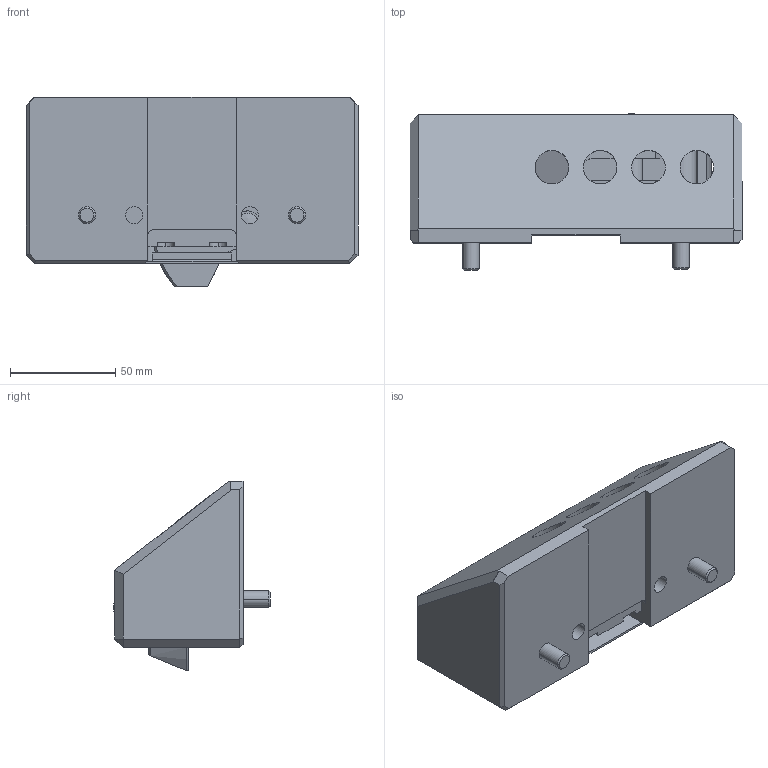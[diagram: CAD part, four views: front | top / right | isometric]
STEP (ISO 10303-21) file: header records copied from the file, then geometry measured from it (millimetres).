
FILE_DESCRIPTION (( 'STEP AP203' ), '1' );
FILE_NAME ('ASUTEC_75010003.STEP', '2017-01-05T06:31:38', ( '' ), ( '' ), 'SwSTEP 2.0', 'SolidWorks 2015', '' );
FILE_SCHEMA (( 'CONFIG_CONTROL_DESIGN' ));
Length unit declared in the file: metre
Products named in the file (1): ASUTEC_75010003
Bounding box: 158 x 74.55 x 90 mm (x, y, z)
Volume: 496554.2 mm3; surface area: 79680.5 mm2
Topology: 2 solids, 4 shells, 291 faces, 710 edges, 446 vertices
Faces by surface type: plane 161, cylinder 92, cone 30, sphere 4, torus 4
Entity records: 8694 total; most frequent: CARTESIAN_POINT 1638, DIRECTION 1488, ORIENTED_EDGE 1408, EDGE_CURVE 704, AXIS2_PLACEMENT_3D 512, LINE 464, VECTOR 464, VERTEX_POINT 446
